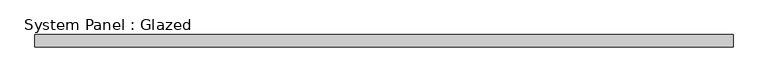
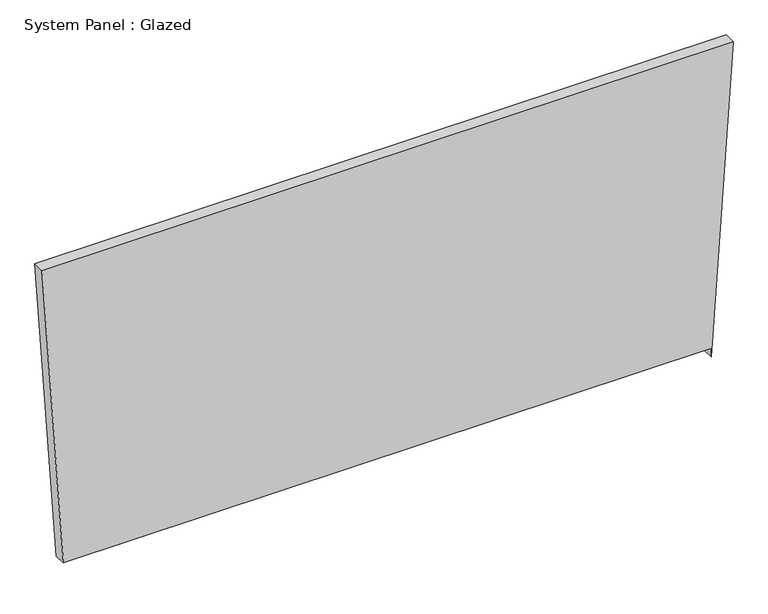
"""IFC4 building model written with IfcOpenShell, lengths in millimetres: plate geometry, System Panel : Glazed."""

from ifc_helpers import new_model, si_unit, frame, origin, place, context, project, spatial, polyline, outline, extrude, source, transform, mapped, element, save


def system_panel_glazed_2e1f7ecc(model_context):
    return source(origin(), model_context, "Body", "SweptSolid", [
        extrude(outline(polyline([(19.05, 678.9061397), (0.0, 678.9061483), (682.7224208, 724.8650606), (682.7217668, -724.8650606), (19.0493869, -680.1885423), (19.05, 678.9061397)])), frame((0.0, 19.05, 0.0), z_axis=(0.0, 1.0, 0.0), x_axis=(0.0, 0.0, 1.0)), (0.0, 0.0, 1.0), 25.4),
    ])


if __name__ == "__main__":
    model = new_model("IFC4")
    model_context = context("Model", 3, world=origin())
    ifc_project = project(units=[si_unit("LENGTHUNIT", "METRE", prefix="MILLI")], contexts=[model_context])
    site = spatial("IfcSite", under=ifc_project)
    building = spatial("IfcBuilding", under=site)
    placement = place(None, origin())
    system_panel_glazed_shape = system_panel_glazed_2e1f7ecc(model_context)
    element("IfcPlate", 1, ObjectType="System Panel : Glazed", at=placement, inside=building, context=model_context, shape_type="MappedRepresentation", body=[
        mapped(system_panel_glazed_shape, transform((0.0, 0.0, 0.0), x_axis=(1.0, 0.0, 0.0), y_axis=(0.0, 1.0, 0.0), z_axis=(0.0, 0.0, 1.0))),
    ])
    save(model, "model.ifc")
